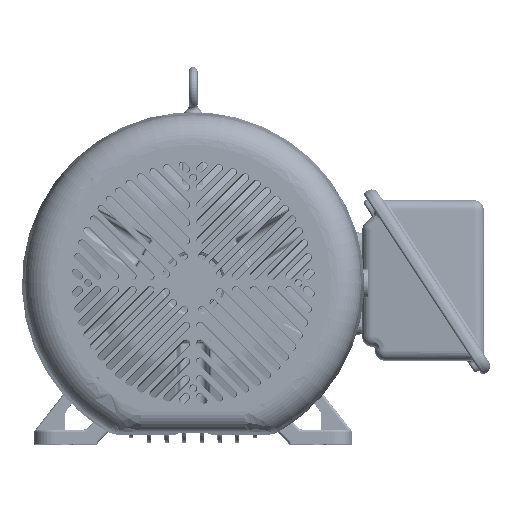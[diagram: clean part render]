
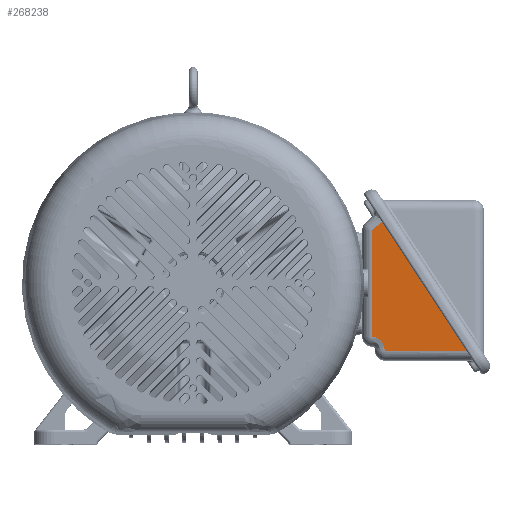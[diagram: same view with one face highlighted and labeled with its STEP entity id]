
A CAD part, top view. The second image highlights one B-rep face of the part: STEP entity #268238.
In plain terms, the highlighted planar face has unit normal (-0.044, -0.029, 0.999) as drawn and (0.044, -0.029, -0.999) by its records, which use the part's own axes.
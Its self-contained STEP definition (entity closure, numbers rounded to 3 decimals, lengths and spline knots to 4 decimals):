
#264305=DIRECTION('',(-0.548,-0.836,
0.));
#264306=VECTOR('',#264305,7.6433);
#264307=CARTESIAN_POINT('',(-0.3451,3.0636,
-3.6185));
#264308=LINE('',#264307,#264306);
#264349=CARTESIAN_POINT('',(-0.3451,3.0636,
-3.6185));
#264350=CARTESIAN_POINT('',(-0.3314,3.046,
-3.6174));
#264351=CARTESIAN_POINT('',(-0.3024,3.0126,
-3.6152));
#264352=CARTESIAN_POINT('',(-0.2701,2.9824,
-3.6129));
#264353=CARTESIAN_POINT('',(-0.2531,2.9681,
-3.6118));
#264369=DIRECTION('',(0.765,-0.642,0.052));
#264370=VECTOR('',#264369,0.5228);
#264371=CARTESIAN_POINT('',(-0.2531,2.9681,
-3.6118));
#264372=LINE('',#264371,#264370);
#264387=DIRECTION('',(0.,-1.,0.029));
#264388=VECTOR('',#264387,5.2809);
#264389=CARTESIAN_POINT('',(0.1469,2.6325,
-3.5846));
#264390=LINE('',#264389,#264388);
#264410=DIRECTION('',(-0.995,-0.087,
-0.041));
#264411=VECTOR('',#264410,0.0501);
#264412=CARTESIAN_POINT('',(0.1469,-2.6462,
-3.433));
#264413=LINE('',#264412,#264411);
#264418=CARTESIAN_POINT('',(0.097,-2.6505,
-3.435));
#264419=CARTESIAN_POINT('',(0.0723,-2.6527,
-3.436));
#264420=CARTESIAN_POINT('',(0.0187,-2.6602,
-3.4382));
#264421=CARTESIAN_POINT('',(-0.0774,-2.6881,
-3.4416));
#264422=CARTESIAN_POINT('',(-0.1781,-2.7373,
-3.4446));
#264423=CARTESIAN_POINT('',(-0.2744,-2.809,
-3.4468));
#264424=CARTESIAN_POINT('',(-0.3567,-2.8998,
-3.4478));
#264425=CARTESIAN_POINT('',(-0.4183,-3.0021,
-3.4475));
#264426=CARTESIAN_POINT('',(-0.4571,-3.1057,
-3.4462));
#264427=CARTESIAN_POINT('',(-0.4756,-3.2022,
-3.4443));
#264428=CARTESIAN_POINT('',(-0.4781,-3.2544,
-3.4429));
#264429=CARTESIAN_POINT('',(-0.4781,-3.2781,
-3.4422));
#264449=DIRECTION('',(0.,-1.,0.029));
#264450=VECTOR('',#264449,0.0512);
#264451=CARTESIAN_POINT('',(-0.4781,-3.2781,
-3.4422));
#264452=LINE('',#264451,#264450);
#267564=CARTESIAN_POINT('',(-4.5345,-3.3293,
-3.6185));
#267604=DIRECTION('',(-0.999,0.,-0.044));
#267605=VECTOR('',#267604,4.0602);
#267606=CARTESIAN_POINT('',(-0.4781,-3.3293,
-3.4407));
#267607=LINE('',#267606,#267605);
#267622=CARTESIAN_POINT('',(-0.4781,-3.2781,
-3.4422));
#267623=CARTESIAN_POINT('',(-0.4781,-3.3293,
-3.4407));
#267624=VERTEX_POINT('',#267622);
#267625=VERTEX_POINT('',#267623);
#267702=VERTEX_POINT('',#267564);
#267706=CARTESIAN_POINT('',(-0.3451,3.0636,
-3.6185));
#267707=VERTEX_POINT('',#267706);
#268096=CARTESIAN_POINT('',(-0.2531,2.9681,
-3.6118));
#268097=CARTESIAN_POINT('',(0.1469,2.6325,
-3.5846));
#268098=VERTEX_POINT('',#268096);
#268099=VERTEX_POINT('',#268097);
#268100=CARTESIAN_POINT('',(0.1469,-2.6462,
-3.433));
#268101=CARTESIAN_POINT('',(0.097,-2.6505,
-3.435));
#268102=VERTEX_POINT('',#268100);
#268103=VERTEX_POINT('',#268101);
#268215=CARTESIAN_POINT('',(-5.079,-3.9356,-3.625));
#268216=DIRECTION('',(-0.044,0.029,0.999));
#268217=DIRECTION('',(-0.548,-0.836,0.));
#268218=AXIS2_PLACEMENT_3D('',#268215,#268216,#268217);
#268219=PLANE('',#268218);
#268221=ORIENTED_EDGE('',*,*,#268220,.T.);
#268223=ORIENTED_EDGE('',*,*,#268222,.F.);
#268225=ORIENTED_EDGE('',*,*,#268224,.F.);
#268227=ORIENTED_EDGE('',*,*,#268226,.F.);
#268229=ORIENTED_EDGE('',*,*,#268228,.F.);
#268231=ORIENTED_EDGE('',*,*,#268230,.F.);
#268233=ORIENTED_EDGE('',*,*,#268232,.F.);
#268235=ORIENTED_EDGE('',*,*,#268234,.F.);
#268236=EDGE_LOOP('',(#268221,#268223,#268225,#268227,#268229,#268231,#268233,
#268235));
#268237=FACE_OUTER_BOUND('',#268236,.F.);
#268238=ADVANCED_FACE('',(#268237),#268219,.F.);
#264354=B_SPLINE_CURVE_WITH_KNOTS('',3,(#264349,#264350,#264351,#264352,
#264353),.UNSPECIFIED.,.F.,.F.,(4,1,4),(0.,0.5,1.),.UNSPECIFIED.);
#264430=B_SPLINE_CURVE_WITH_KNOTS('',3,(#264418,#264419,#264420,#264421,#264422,
#264423,#264424,#264425,#264426,#264427,#264428,#264429),.UNSPECIFIED.,.F.,.F.,(
4,1,1,1,1,1,1,1,1,4),(0.,0.1111,0.2222,
0.3333,0.4444,0.5556,0.6667,
0.7778,0.8889,1.),.UNSPECIFIED.);
#268220=EDGE_CURVE('',#267707,#267702,#264308,.T.);
#268222=EDGE_CURVE('',#267625,#267702,#267607,.T.);
#268224=EDGE_CURVE('',#267624,#267625,#264452,.T.);
#268226=EDGE_CURVE('',#268103,#267624,#264430,.T.);
#268228=EDGE_CURVE('',#268102,#268103,#264413,.T.);
#268230=EDGE_CURVE('',#268099,#268102,#264390,.T.);
#268232=EDGE_CURVE('',#268098,#268099,#264372,.T.);
#268234=EDGE_CURVE('',#267707,#268098,#264354,.T.);
